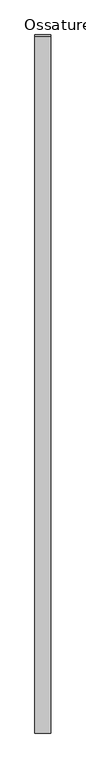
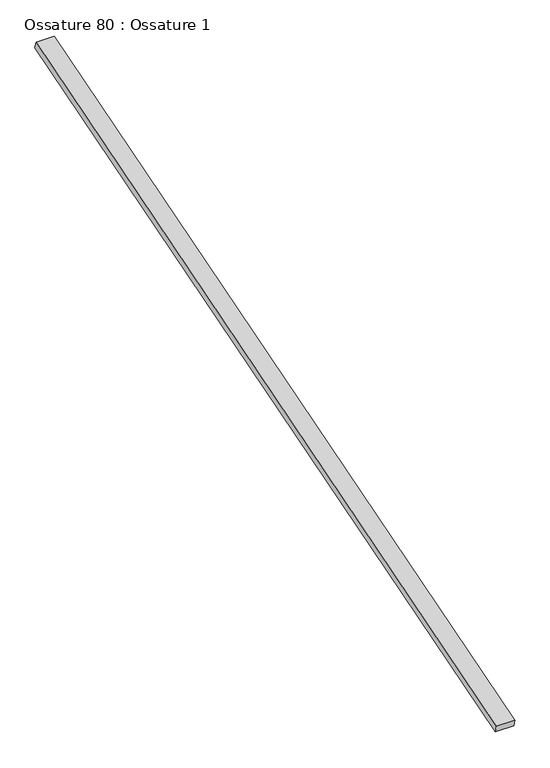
"""IFC4 building model written with IfcOpenShell, lengths in millimetres: beam geometry, Ossature 80 : Ossature 1."""

import ifcopenshell
import ifcopenshell.guid

model = None  # the IFC model being written
_history = None  # IfcOwnerHistory: only IFC2X3 demands one
_inside = {}  # id of a spatial element -> (the spatial element, [elements in it])
_under = {}  # id of a project, library or spatial element -> (it, [spatial elements below it])
_declared = {}  # id of a project -> (the project, [libraries it declares])
_typed = {}  # id of a type object -> (the type object, [elements of that type])
_made_of = {}  # id of a material, layer set ... -> (it, [elements and type objects made of it])


def new_model(schema):
    """Start an empty IFC model of exactly this schema.

    Asked for "IFC4X3", IfcOpenShell would pick the latest addendum, in which some entities
    have other attributes; the version numbers below select the first issue.
    IFC2X3 requires an IfcOwnerHistory on every rooted entity: one is made here for all.
    """
    global model, _history
    if schema == "IFC4X3":
        model = ifcopenshell.file(schema_version=(4, 3, 0, 0))
    else:
        model = ifcopenshell.file(schema=schema)
    _inside.clear()
    _under.clear()
    _declared.clear()
    _typed.clear()
    _made_of.clear()
    _history = None
    if model.schema == "IFC2X3":
        org = make("IfcOrganization", Name="unknown")
        user = make(
            "IfcPersonAndOrganization",
            ThePerson=make("IfcPerson", FamilyName="unknown"),
            TheOrganization=org,
        )
        app = make(
            "IfcApplication",
            ApplicationDeveloper=org,
            Version="unknown",
            ApplicationFullName="unknown",
            ApplicationIdentifier="unknown",
        )
        _history = make(
            "IfcOwnerHistory",
            OwningUser=user,
            OwningApplication=app,
            ChangeAction="ADDED",
            CreationDate=0,
        )
    return model


def make(cls, **values):
    """One entity of the class cls with the attributes given. An attribute that is None is left unset."""
    return model.create_entity(
        cls, **{name: value for name, value in values.items() if value is not None}
    )


def rooted(cls, **values):
    """An entity with a GlobalId (a new one), such as an element, a storey or a relation."""
    return make(cls, GlobalId=ifcopenshell.guid.new(), OwnerHistory=_history, **values)


def si_unit(unit_type, name, prefix=None):
    """IfcSIUnit, for example si_unit("LENGTHUNIT", "METRE", prefix="MILLI")."""
    return make("IfcSIUnit", UnitType=unit_type, Prefix=prefix, Name=name)


def assignment(units):
    """IfcUnitAssignment: the units of a project."""
    return None if units is None else make("IfcUnitAssignment", Units=units)


def point(xyz):
    """IfcCartesianPoint."""
    return None if xyz is None else make("IfcCartesianPoint", Coordinates=xyz)


def direction(xyz):
    """IfcDirection."""
    return None if xyz is None else make("IfcDirection", DirectionRatios=xyz)


def frame(location, z_axis=None, x_axis=None):
    """IfcAxis2Placement3D, a coordinate frame: its origin and axes. An axis left out is left unset."""
    return make(
        "IfcAxis2Placement3D",
        Location=point(location),
        Axis=direction(z_axis),
        RefDirection=direction(x_axis),
    )


def origin():
    """The frame at (0, 0, 0) with its axes left unset."""
    return frame((0.0, 0.0, 0.0))


def place(relative_to, where):
    """IfcLocalPlacement: puts the frame where relative to a parent placement (None: the world)."""
    return make(
        "IfcLocalPlacement", PlacementRelTo=relative_to, RelativePlacement=where
    )


def context(
    kind, dimensions, precision=None, world=None, true_north=None, identifier=None
):
    """IfcGeometricRepresentationContext, for example the 3D "Model" context."""
    return make(
        "IfcGeometricRepresentationContext",
        ContextIdentifier=identifier,
        ContextType=kind,
        CoordinateSpaceDimension=dimensions,
        Precision=precision,
        WorldCoordinateSystem=world,
        TrueNorth=true_north,
    )


def project(units=None, contexts=None):
    """IfcProject with its units and contexts."""
    return rooted(
        "IfcProject",
        Name="project",
        RepresentationContexts=contexts,
        UnitsInContext=assignment(units),
    )


def spatial(cls, under=None, at=None, **own):
    """A site, building, storey or space (cls), placed at a placement, below another one or the project."""
    s = rooted(cls, ObjectPlacement=at, **own)
    if under is not None:
        _under.setdefault(under.id(), (under, []))[1].append(s)
    return s


def polyline(points):
    """IfcPolyline through the points."""
    return make("IfcPolyline", Points=[point(p) for p in points])


def outline(outer, holes=None, kind="AREA"):
    """IfcArbitraryClosedProfileDef: a profile drawn as a closed curve; with holes, ...WithVoids."""
    if holes is None:
        return make("IfcArbitraryClosedProfileDef", ProfileType=kind, OuterCurve=outer)
    return make(
        "IfcArbitraryProfileDefWithVoids",
        ProfileType=kind,
        OuterCurve=outer,
        InnerCurves=holes,
    )


def extrude(swept, where, along, depth):
    """IfcExtrudedAreaSolid: the profile swept, set in the frame where, extruded along a direction by depth."""
    return make(
        "IfcExtrudedAreaSolid",
        SweptArea=swept,
        Position=where,
        ExtrudedDirection=direction(along),
        Depth=depth,
    )


def shape(context_of_items, identifier, shape_type, items):
    """IfcShapeRepresentation: the items that make up one representation, for example the "Body"."""
    return make(
        "IfcShapeRepresentation",
        ContextOfItems=context_of_items,
        RepresentationIdentifier=identifier,
        RepresentationType=shape_type,
        Items=items,
    )


def source(mapping_origin, context_of_items, identifier, shape_type, items):
    """IfcRepresentationMap: a shape defined once, which mapped items show again and again."""
    return make(
        "IfcRepresentationMap",
        MappingOrigin=mapping_origin,
        MappedRepresentation=shape(context_of_items, identifier, shape_type, items),
    )


def transform(
    local_origin,
    x_axis=None,
    y_axis=None,
    z_axis=None,
    scale=None,
    scale2=None,
    scale3=None,
    uniform=True,
):
    """IfcCartesianTransformationOperator3D, or its non-uniform kind. x_axis, y_axis, z_axis: its Axis1, 2, 3."""
    if uniform:
        return make(
            "IfcCartesianTransformationOperator3D",
            Axis1=direction(x_axis),
            Axis2=direction(y_axis),
            LocalOrigin=point(local_origin),
            Scale=scale,
            Axis3=direction(z_axis),
        )
    return make(
        "IfcCartesianTransformationOperator3DnonUniform",
        Axis1=direction(x_axis),
        Axis2=direction(y_axis),
        LocalOrigin=point(local_origin),
        Scale=scale,
        Axis3=direction(z_axis),
        Scale2=scale2,
        Scale3=scale3,
    )


def mapped(mapping_source, mapping_target):
    """IfcMappedItem: shows the shape of a source again, moved by a transform."""
    return make(
        "IfcMappedItem", MappingSource=mapping_source, MappingTarget=mapping_target
    )


def made_of(thing, what):
    """Note that an element or type object is made of a material, layer set ...; save() writes the relation."""
    if what is not None:
        _made_of.setdefault(what.id(), (what, []))[1].append(thing)
    return thing


def element(
    cls,
    number,
    at=None,
    inside=None,
    cuts=None,
    type_object=None,
    material=None,
    context=None,
    identifier="Body",
    shape_type=None,
    held_by="IfcProductDefinitionShape",
    body=None,
    shapes=None,
    **own,
):
    """One element of the class cls, such as IfcWall. Its Tag is "e" and its number.

    at: its placement. inside: the storey or other place that contains it. cuts: it is an
    opening in that element (IfcRelVoidsElement). A single representation is given by context,
    identifier, shape_type and body (its items); several are given by shapes. held_by: the class
    of the entity that holds the representations. save() writes the other relations.
    """
    e = rooted(cls, Tag="e%d" % number, ObjectPlacement=at, **own)
    if body is not None:
        shapes = [shape(context, identifier, shape_type, body)]
    if shapes is not None:
        e.Representation = make(held_by, Representations=shapes)
    if inside is not None:
        _inside.setdefault(inside.id(), (inside, []))[1].append(e)
    if cuts is not None:
        rooted(
            "IfcRelVoidsElement", RelatingBuildingElement=cuts, RelatedOpeningElement=e
        )
    if type_object is not None:
        _typed.setdefault(type_object.id(), (type_object, []))[1].append(e)
    return made_of(e, material)


def aggregate(whole, parts):
    """IfcRelAggregates: a whole, such as a stair, and the parts it consists of."""
    return rooted("IfcRelAggregates", RelatingObject=whole, RelatedObjects=parts)


def save(model, path):
    """Write the relations noted so far, then the file.

    IfcRelAggregates (storeys below a building ...), IfcRelContainedInSpatialStructure (elements
    in a storey), IfcRelDefinesByType, IfcRelAssociatesMaterial and IfcRelDeclares: one each for
    every whole, place, type object, material and project.
    """
    for whole, parts in _under.values():
        aggregate(whole, parts)
    for where, things in _inside.values():
        rooted(
            "IfcRelContainedInSpatialStructure",
            RelatedElements=things,
            RelatingStructure=where,
        )
    for kind, things in _typed.values():
        rooted("IfcRelDefinesByType", RelatedObjects=things, RelatingType=kind)
    for what, things in _made_of.values():
        rooted("IfcRelAssociatesMaterial", RelatedObjects=things, RelatingMaterial=what)
    for by, libraries in _declared.values():
        rooted("IfcRelDeclares", RelatingContext=by, RelatedDefinitions=libraries)
    model.write(path)


def ossature_80_ossature_1_7a221379(model_context):
    return source(origin(), model_context, "Body", "SweptSolid", [
        extrude(outline(polyline([(0.0, 0.0), (0.0, -4543.0299679), (-100.0, -4543.0299679), (-100.0, 0.0), (0.0, 0.0)])), frame((19339.6466393, -833.3913565, 8153.6336115), z_axis=(0.0, -0.28734788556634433, 0.9578262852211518), x_axis=(-1.0, 0.0, 0.0)), (0.0, 0.0, 1.0), 40.0),
    ])


if __name__ == "__main__":
    model = new_model("IFC4")
    model_context = context("Model", 3, world=origin())
    ifc_project = project(units=[si_unit("LENGTHUNIT", "METRE", prefix="MILLI")], contexts=[model_context])
    site = spatial("IfcSite", under=ifc_project)
    building = spatial("IfcBuilding", under=site)
    placement = place(None, origin())
    ossature_80_ossature_1_shape = ossature_80_ossature_1_7a221379(model_context)
    element("IfcBeam", 1, ObjectType="Ossature 80 : Ossature 1", at=placement, inside=building, context=model_context, shape_type="MappedRepresentation", body=[
        mapped(ossature_80_ossature_1_shape, transform((0.0, 0.0, 0.0), x_axis=(1.0, 0.0, 0.0), y_axis=(0.0, 1.0, 0.0), z_axis=(0.0, 0.0, 1.0))),
    ])
    save(model, "model.ifc")
